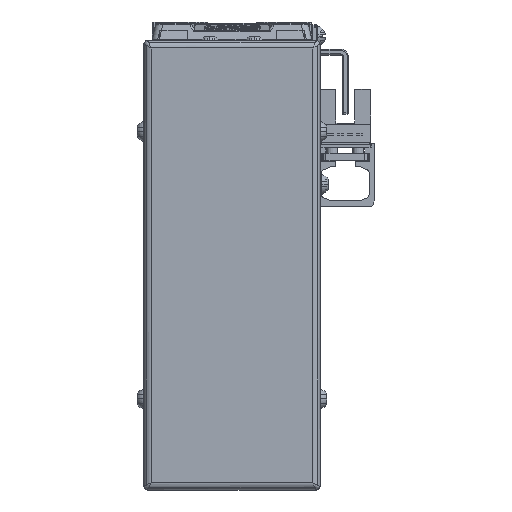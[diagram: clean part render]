
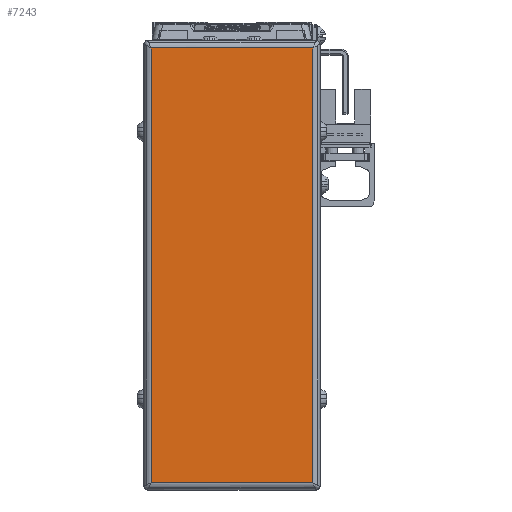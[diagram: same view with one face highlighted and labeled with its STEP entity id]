
A CAD part, left-side view. The second image highlights one B-rep face of the part: STEP entity #7243.
In plain terms, the highlighted planar face has unit normal (-1, 0, 0).
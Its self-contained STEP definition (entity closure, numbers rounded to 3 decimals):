
#7243=ADVANCED_FACE('',(#14616),#14617,.T.);
#14616=FACE_OUTER_BOUND('',#25322,.T.);
#14617=PLANE('',#25323);
#25322=EDGE_LOOP('',(#45837,#45838,#45839,#45840));
#25323=AXIS2_PLACEMENT_3D('',#45841,#45842,#45843);
#45837=ORIENTED_EDGE('',*,*,#47854,.F.);
#45838=ORIENTED_EDGE('',*,*,#47122,.F.);
#45839=ORIENTED_EDGE('',*,*,#53143,.F.);
#45840=ORIENTED_EDGE('',*,*,#53905,.F.);
#45841=CARTESIAN_POINT('',(-48.,0.,-42.5));
#45842=DIRECTION('',(-1.0,0.,0.));
#45843=DIRECTION('',(0.,0.,1.0));
#47122=EDGE_CURVE('',#55701,#55703,#55704,.T.);
#47854=EDGE_CURVE('',#55703,#56994,#56995,.T.);
#53143=EDGE_CURVE('',#62112,#55701,#65054,.T.);
#53905=EDGE_CURVE('',#56994,#62112,#65977,.T.);
#55701=VERTEX_POINT('',#68061);
#55703=VERTEX_POINT('',#68063);
#55704=LINE('',#68064,#68065);
#56994=VERTEX_POINT('',#69843);
#56995=LINE('',#69844,#69845);
#62112=VERTEX_POINT('',#77063);
#65054=LINE('',#81484,#81485);
#65977=LINE('',#82775,#82776);
#68061=CARTESIAN_POINT('',(-48.,21.7,-101.0));
#68063=CARTESIAN_POINT('',(-48.,21.7,16.));
#68064=CARTESIAN_POINT('',(-48.,21.7,-42.5));
#68065=VECTOR('',#85184,10.0);
#69843=CARTESIAN_POINT('',(-48.,-21.7,16.));
#69844=CARTESIAN_POINT('',(-48.,0.,16.));
#69845=VECTOR('',#86201,10.0);
#77063=CARTESIAN_POINT('',(-48.,-21.7,-101.0));
#81484=CARTESIAN_POINT('',(-48.,0.,-101.0));
#81485=VECTOR('',#93018,10.0);
#82775=CARTESIAN_POINT('',(-48.,-21.7,-42.5));
#82776=VECTOR('',#93822,10.0);
#85184=DIRECTION('',(0.,0.,1.0));
#86201=DIRECTION('',(0.,-1.0,0.));
#93018=DIRECTION('',(0.,1.0,0.));
#93822=DIRECTION('',(0.,0.,-1.0));
